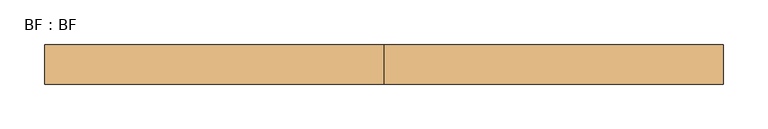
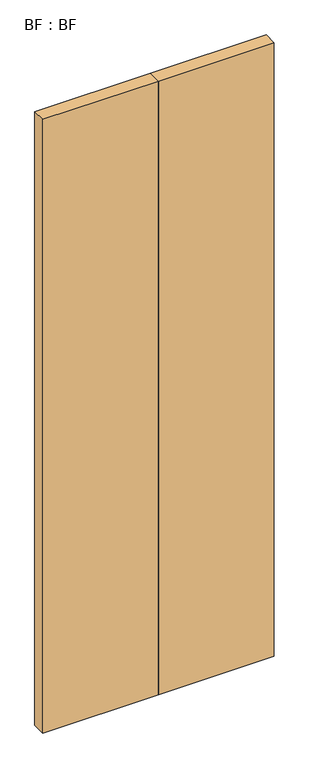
"""IFC4 building model written with IfcOpenShell, lengths in millimetres: door geometry, BF : BF."""

from ifc_helpers import new_model, si_unit, origin, origin_with_axes, place, context, project, spatial, polyline, outline, extrude, source, transform, mapped, element, save


def bf_bf_6816b2fd(model_context):
    return source(origin(), model_context, "Body", "SweptSolid", [
        extrude(outline(polyline([(0.0, -22.225), (-381.0, -22.225), (-381.0, 22.225), (0.0, 22.225), (0.0, -22.225)])), origin_with_axes(), (0.0, 0.0, 1.0), 2133.6),
        extrude(outline(polyline([(-762.1984375, -22.225), (-762.1984375, 22.225), (-381.1984375, 22.225), (-381.1984375, -22.225), (-762.1984375, -22.225)])), origin_with_axes(), (0.0, 0.0, 1.0), 2133.6),
    ])


if __name__ == "__main__":
    model = new_model("IFC4")
    model_context = context("Model", 3, world=origin())
    ifc_project = project(units=[si_unit("LENGTHUNIT", "METRE", prefix="MILLI")], contexts=[model_context])
    site = spatial("IfcSite", under=ifc_project)
    building = spatial("IfcBuilding", under=site)
    placement = place(None, origin())
    bf_bf_shape = bf_bf_6816b2fd(model_context)
    element("IfcDoor", 1, ObjectType="BF : BF", at=placement, inside=building, context=model_context, shape_type="MappedRepresentation", body=[
        mapped(bf_bf_shape, transform((0.0, 0.0, 0.0), x_axis=(1.0, 0.0, 0.0), y_axis=(0.0, 1.0, 0.0), z_axis=(0.0, 0.0, 1.0))),
    ])
    save(model, "model.ifc")
